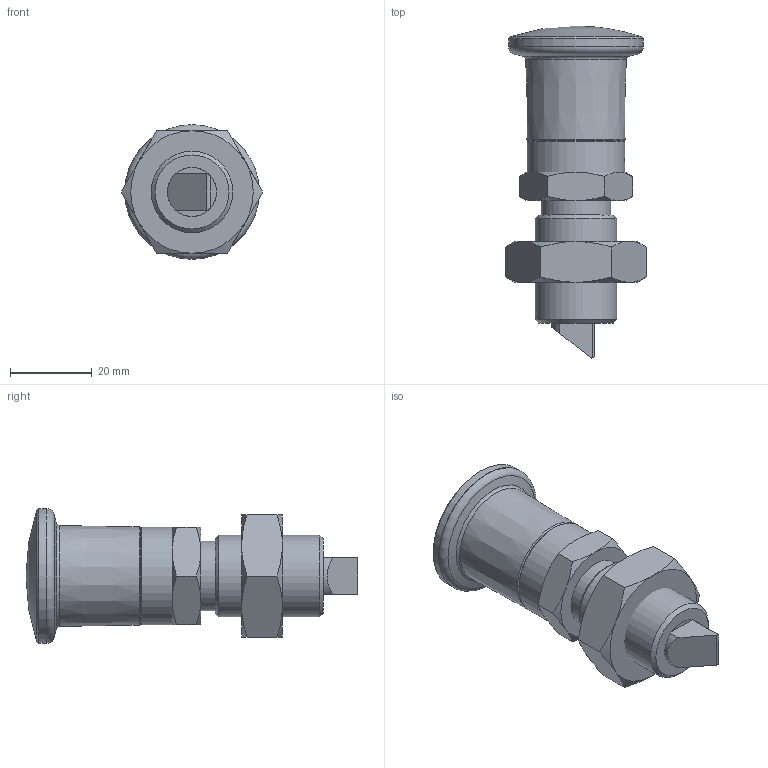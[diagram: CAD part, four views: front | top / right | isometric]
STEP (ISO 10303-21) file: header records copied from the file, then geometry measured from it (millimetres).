
FILE_DESCRIPTION(/* description */ ('STEP AP214'),/* implementation_level */ '2;1');
FILE_NAME(/* name */ 'Indexing Plunger_ Stainless Steel GN 824-9-8_5-CK-NI (deactivated)',/* time_stamp */ '2024-11-18T12:35:51+01:00',/* author */ ('License CC BY-ND 4.0'),/* organization */ ('CADENAS'),/* preprocessor_version */ 'ST-DEVELOPER v19.3',/* originating_system */ 'PARTsolutions',/* authorisation */ ' ');
FILE_SCHEMA (('AUTOMOTIVE_DESIGN {1 0 10303 214 3 1 1}'));
Length unit declared in the file: millimetre
Products named in the file (4): Indexing Plunger, Stainless Steel GN 824-9-8,5-CK-NI (deactivated); Indexing Plunger, Stainless Steel GN 824-9-8,5-CK-NI (closed)-1; Indexing Plunger, Stainless Steel GN 824-9-8,5-CK-NI (closed)-2; Indexing Plunger, Stainless Steel GN 824-9-8,5-CK-NI (closed)-3
Assembly tree (3 placements, depth 2):
  Indexing Plunger, Stainless Steel GN 824-9-8,5-CK-NI (deactivated)
    Indexing Plunger, Stainless Steel GN 824-9-8,5-CK-NI (closed)-1
    Indexing Plunger, Stainless Steel GN 824-9-8,5-CK-NI (closed)-2
    Indexing Plunger, Stainless Steel GN 824-9-8,5-CK-NI (closed)-3
Bounding box: 34.64 x 81.3 x 33 mm (x, y, z)
Volume: 33919.6 mm3; surface area: 17045.4 mm2
Topology: 3 solids, 3 shells, 104 faces, 224 edges, 137 vertices
Faces by surface type: plane 48, cone 33, cylinder 19, torus 3, sphere 1
Full cylindrical faces by diameter (mm): 3.3 x1, 9 x2, 12 x2, 13 x2, 14 x1, 17 x1, 17.294 x1, 20 x1, 24 x1, 32.98 x1, 33 x1
Entity records: 3353 total; most frequent: CARTESIAN_POINT 620, DIRECTION 426, ORIENTED_EDGE 382, EDGE_CURVE 191, AXIS2_PLACEMENT_3D 185, EDGE_LOOP 146, FACE_BOUND 146, VERTEX_POINT 131
